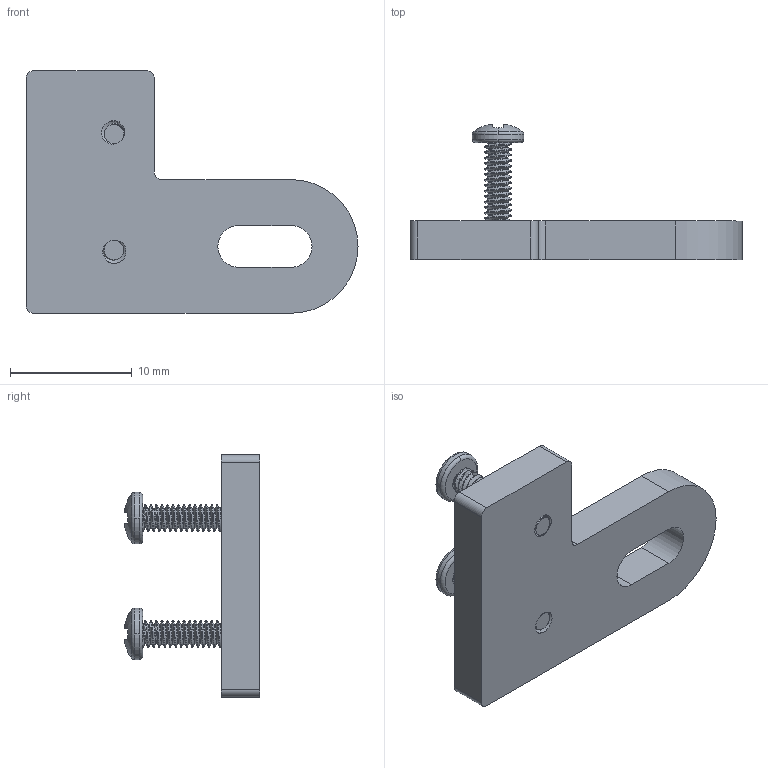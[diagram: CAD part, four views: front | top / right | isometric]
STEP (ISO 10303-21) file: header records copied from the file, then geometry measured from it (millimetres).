
FILE_DESCRIPTION (( 'STEP AP203' ), '1' );
FILE_NAME ('605626 assembly.STEP', '2016-09-06T15:33:09', ( '' ), ( '' ), 'SwSTEP 2.0', 'SolidWorks 2014', '' );
FILE_SCHEMA (( 'CONFIG_CONTROL_DESIGN' ));
Length unit declared in the file: inch
Products named in the file (3): 90272A079_90272A079; 605626 assembly; 605626
Assembly tree (3 placements, depth 2):
  605626 assembly
    605626
    90272A079_90272A079  x2
Bounding box: 27.3 x 11.12 x 19.94 mm (x, y, z)
Volume: 1194.6 mm3; surface area: 1404.2 mm2
Topology: 3 solids, 3 shells, 410 faces, 1196 edges, 794 vertices
Faces by surface type: cylinder 323, plane 47, cone 18, bspline 10, torus 8, sphere 4
Entity records: 12895 total; most frequent: CARTESIAN_POINT 6969, ORIENTED_EDGE 1478, DIRECTION 917, EDGE_CURVE 739, VERTEX_POINT 491, AXIS2_PLACEMENT_3D 333, EDGE_LOOP 260, FACE_OUTER_BOUND 253
